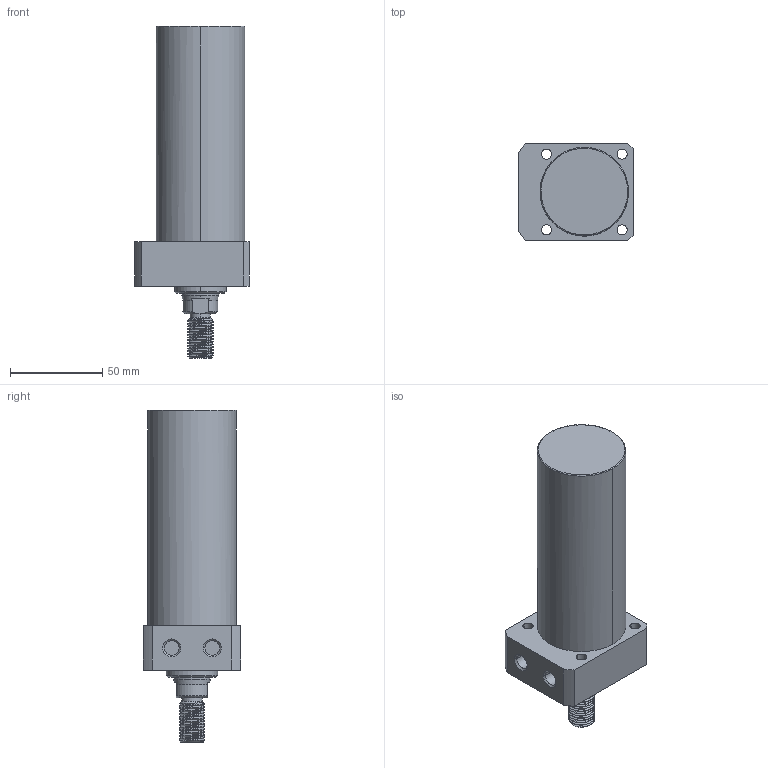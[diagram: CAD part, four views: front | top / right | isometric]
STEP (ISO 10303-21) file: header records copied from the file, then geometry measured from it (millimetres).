
FILE_DESCRIPTION((' '),'2;1');
FILE_NAME( 'TLLR-048CT-090.STEP.stp', '2025-10-24T16:34:36', (' '), ('--- Datakit www.datakit.com---'), ' Datakit CrossCadWare V2024.1 Dec 21 2023', 'Mastercam 2025', ' ');
FILE_SCHEMA(('AUTOMOTIVE_DESIGN { 1 0 10303 214 1 1 1 1 }'));
Length unit declared in the file: millimetre
Products named in the file (1): TLLR-048CT-090
Bounding box: 62 x 53 x 180 mm (x, y, z)
Volume: 294662.4 mm3; surface area: 34298.9 mm2
Topology: 1 solids, 1 shells, 97 faces, 332 edges, 245 vertices
Faces by surface type: cylinder 56, plane 20, cone 17, torus 2, bspline 2
Entity records: 10361 total; most frequent: CARTESIAN_POINT 7440, ORIENTED_EDGE 664, DIRECTION 503, EDGE_CURVE 332, VERTEX_POINT 245, AXIS2_PLACEMENT_3D 206, B_SPLINE_CURVE_WITH_KNOTS 131, EDGE_LOOP 113
